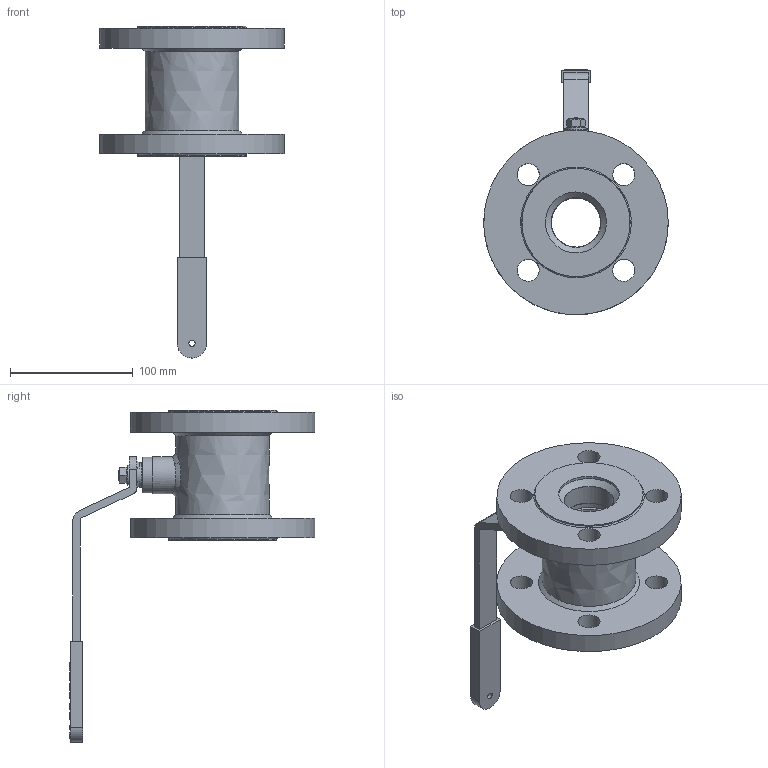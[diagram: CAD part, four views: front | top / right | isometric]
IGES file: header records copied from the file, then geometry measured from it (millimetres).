
Global section: file name: 40.21k.000.B1-10-40.00; native system: Autodesk Inventor 2015; preprocessor: unknown; author: pdrozdzowski; date: 20171031.081448; units: centimetre
Bounding box: 149.97 x 199.92 x 269.98 mm (x, y, z)
Volume: 739508.8 mm3; surface area: 173345.7 mm2
Topology: 2 solids, 12 shells, 568 faces, 1521 edges, 1004 vertices
Faces by surface type: bspline 568
